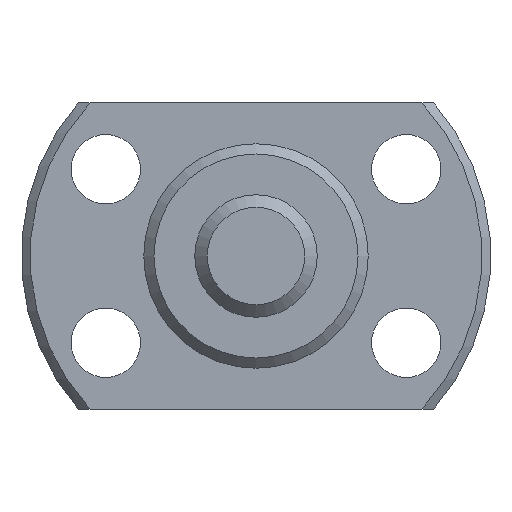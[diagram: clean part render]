
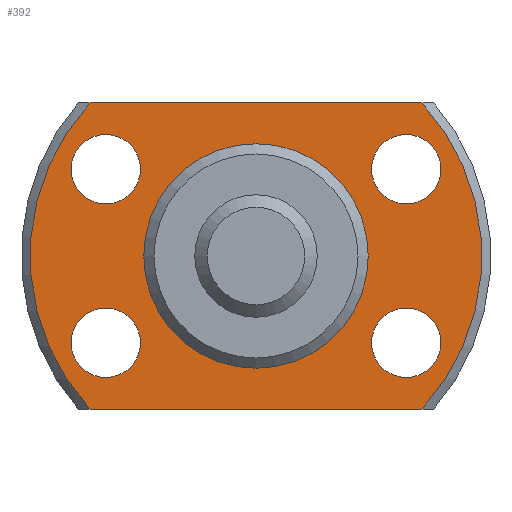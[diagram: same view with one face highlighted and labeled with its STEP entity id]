
A CAD part, left-side view. The second image highlights one B-rep face of the part: STEP entity #392.
In plain terms, the highlighted planar face has unit normal (-1, 0, 0) as drawn and (1, 0, 0) by its records, which use the part's own axes.
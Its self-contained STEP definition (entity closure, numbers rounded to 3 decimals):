
#22=LINE('',#695,#30);
#23=LINE('',#697,#31);
#30=VECTOR('',#570,1000.);
#31=VECTOR('',#571,1000.);
#114=ORIENTED_EDGE('',*,*,#189,.T.);
#115=ORIENTED_EDGE('',*,*,#167,.T.);
#116=ORIENTED_EDGE('',*,*,#190,.T.);
#117=ORIENTED_EDGE('',*,*,#191,.T.);
#118=ORIENTED_EDGE('',*,*,#192,.F.);
#119=ORIENTED_EDGE('',*,*,#193,.F.);
#120=ORIENTED_EDGE('',*,*,#194,.F.);
#121=ORIENTED_EDGE('',*,*,#195,.F.);
#122=ORIENTED_EDGE('',*,*,#188,.F.);
#167=EDGE_CURVE('',#209,#211,#245,.T.);
#188=EDGE_CURVE('',#230,#230,#260,.T.);
#189=EDGE_CURVE('',#231,#209,#22,.T.);
#190=EDGE_CURVE('',#211,#232,#23,.T.);
#191=EDGE_CURVE('',#232,#231,#261,.T.);
#192=EDGE_CURVE('',#233,#233,#262,.T.);
#193=EDGE_CURVE('',#234,#234,#263,.T.);
#194=EDGE_CURVE('',#235,#235,#264,.T.);
#195=EDGE_CURVE('',#236,#236,#265,.T.);
#209=VERTEX_POINT('',#630);
#211=VERTEX_POINT('',#637);
#230=VERTEX_POINT('',#693);
#231=VERTEX_POINT('',#696);
#232=VERTEX_POINT('',#698);
#233=VERTEX_POINT('',#701);
#234=VERTEX_POINT('',#703);
#235=VERTEX_POINT('',#705);
#236=VERTEX_POINT('',#707);
#245=CIRCLE('',#442,11.063);
#260=CIRCLE('',#466,5.3);
#261=CIRCLE('',#468,11.063);
#262=CIRCLE('',#469,1.7);
#263=CIRCLE('',#470,1.7);
#264=CIRCLE('',#471,1.7);
#265=CIRCLE('',#472,1.7);
#298=EDGE_LOOP('',(#114,#115,#116,#117));
#299=EDGE_LOOP('',(#118));
#300=EDGE_LOOP('',(#119));
#301=EDGE_LOOP('',(#120));
#302=EDGE_LOOP('',(#121));
#303=EDGE_LOOP('',(#122));
#348=FACE_BOUND('',#298,.T.);
#349=FACE_BOUND('',#299,.T.);
#350=FACE_BOUND('',#300,.T.);
#351=FACE_BOUND('',#301,.T.);
#352=FACE_BOUND('',#302,.T.);
#353=FACE_BOUND('',#303,.T.);
#373=PLANE('',#467);
#392=ADVANCED_FACE('',(#348,#349,#350,#351,#352,#353),#373,.T.);
#442=AXIS2_PLACEMENT_3D('',#638,#514,#515);
#466=AXIS2_PLACEMENT_3D('',#692,#566,#567);
#467=AXIS2_PLACEMENT_3D('',#694,#568,#569);
#468=AXIS2_PLACEMENT_3D('',#699,#572,#573);
#469=AXIS2_PLACEMENT_3D('',#700,#574,#575);
#470=AXIS2_PLACEMENT_3D('',#702,#576,#577);
#471=AXIS2_PLACEMENT_3D('',#704,#578,#579);
#472=AXIS2_PLACEMENT_3D('',#706,#580,#581);
#514=DIRECTION('',(1.,0.,0.));
#515=DIRECTION('',(0.,0.,-1.));
#566=DIRECTION('',(1.,0.,0.));
#567=DIRECTION('',(0.,0.,-1.));
#568=DIRECTION('',(1.,0.,0.));
#569=DIRECTION('',(0.,0.,-1.));
#570=DIRECTION('',(0.,-1.,0.));
#571=DIRECTION('',(0.,1.,0.));
#572=DIRECTION('',(1.,0.,0.));
#573=DIRECTION('',(0.,0.,-1.));
#574=DIRECTION('',(1.,0.,0.));
#575=DIRECTION('',(0.,0.,-1.));
#576=DIRECTION('',(1.,0.,0.));
#577=DIRECTION('',(0.,0.,-1.));
#578=DIRECTION('',(1.,0.,0.));
#579=DIRECTION('',(0.,0.,-1.));
#580=DIRECTION('',(1.,0.,0.));
#581=DIRECTION('',(0.,0.,-1.));
#630=CARTESIAN_POINT('',(3.5,-8.132,7.5));
#637=CARTESIAN_POINT('',(3.5,-8.132,-7.5));
#638=CARTESIAN_POINT('',(3.5,0.,0.));
#692=CARTESIAN_POINT('',(3.5,0.,0.));
#693=CARTESIAN_POINT('',(3.5,0.,-5.3));
#694=CARTESIAN_POINT('',(3.5,5.3,0.));
#695=CARTESIAN_POINT('',(3.5,11.5,7.5));
#696=CARTESIAN_POINT('',(3.5,8.132,7.5));
#697=CARTESIAN_POINT('',(3.5,-11.5,-7.5));
#698=CARTESIAN_POINT('',(3.5,8.132,-7.5));
#699=CARTESIAN_POINT('',(3.5,0.,0.));
#700=CARTESIAN_POINT('',(3.5,7.361,4.25));
#701=CARTESIAN_POINT('',(3.5,7.361,2.55));
#702=CARTESIAN_POINT('',(3.5,-7.361,4.25));
#703=CARTESIAN_POINT('',(3.5,-7.361,2.55));
#704=CARTESIAN_POINT('',(3.5,-7.361,-4.25));
#705=CARTESIAN_POINT('',(3.5,-7.361,-5.95));
#706=CARTESIAN_POINT('',(3.5,7.361,-4.25));
#707=CARTESIAN_POINT('',(3.5,7.361,-5.95));
